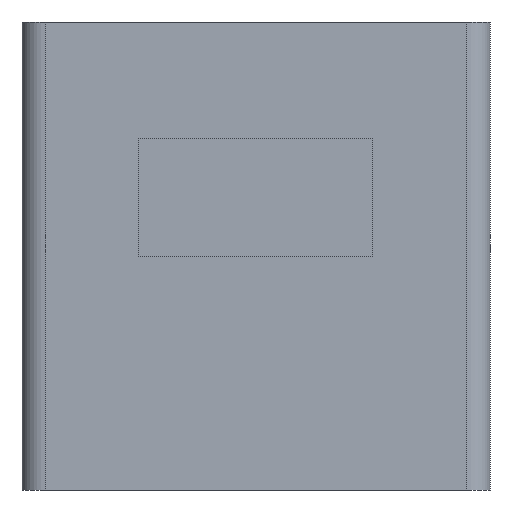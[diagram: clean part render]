
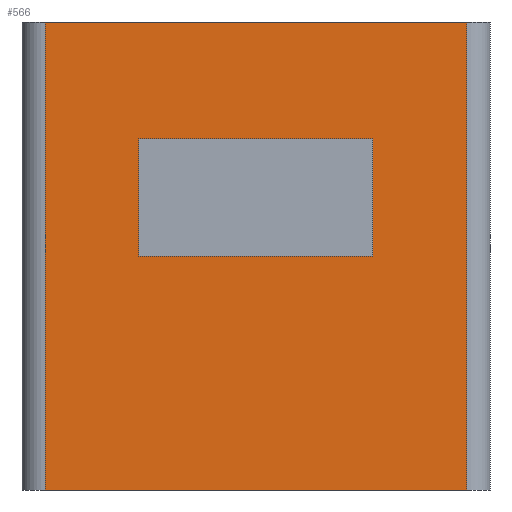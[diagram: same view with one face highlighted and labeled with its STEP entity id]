
A CAD part, front view. The second image highlights one B-rep face of the part: STEP entity #566.
In plain terms, the highlighted planar face has unit normal (0, -1, 0).
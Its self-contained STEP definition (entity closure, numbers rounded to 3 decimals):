
#7 = EDGE_LOOP ( 'NONE', ( #268, #899, #698, #457 ) ) ;
#36 = CARTESIAN_POINT ( 'NONE',  ( -5., -10., 5. ) ) ;
#37 = LINE ( 'NONE', #1139, #1037 ) ;
#41 = VECTOR ( 'NONE', #868, 1000. ) ;
#43 = LINE ( 'NONE', #1144, #363 ) ;
#106 = ORIENTED_EDGE ( 'NONE', *, *, #714, .F. ) ;
#112 = EDGE_LOOP ( 'NONE', ( #106, #985, #373, #432 ) ) ;
#133 = DIRECTION ( 'NONE',  ( 1., 0., 0. ) ) ;
#138 = DIRECTION ( 'NONE',  ( 0., 0., 1. ) ) ;
#149 = VERTEX_POINT ( 'NONE', #238 ) ;
#203 = LINE ( 'NONE', #974, #41 ) ;
#209 = VECTOR ( 'NONE', #133, 1000. ) ;
#210 = VECTOR ( 'NONE', #440, 1000. ) ;
#220 = DIRECTION ( 'NONE',  ( -1., 0., 0. ) ) ;
#238 = CARTESIAN_POINT ( 'NONE',  ( -9., -10., 10. ) ) ;
#268 = ORIENTED_EDGE ( 'NONE', *, *, #472, .F. ) ;
#274 = EDGE_CURVE ( 'NONE', #582, #803, #720, .T. ) ;
#285 = CARTESIAN_POINT ( 'NONE',  ( -10., -10., 10. ) ) ;
#295 = CARTESIAN_POINT ( 'NONE',  ( 5., -10., 5. ) ) ;
#313 = EDGE_CURVE ( 'NONE', #350, #686, #449, .T. ) ;
#316 = EDGE_CURVE ( 'NONE', #469, #582, #37, .T. ) ;
#343 = CARTESIAN_POINT ( 'NONE',  ( 9., -10., -10. ) ) ;
#350 = VERTEX_POINT ( 'NONE', #496 ) ;
#356 = VERTEX_POINT ( 'NONE', #1070 ) ;
#363 = VECTOR ( 'NONE', #1044, 1000. ) ;
#365 = EDGE_CURVE ( 'NONE', #149, #469, #43, .T. ) ;
#373 = ORIENTED_EDGE ( 'NONE', *, *, #570, .F. ) ;
#377 = CARTESIAN_POINT ( 'NONE',  ( -5., -10., 5. ) ) ;
#416 = AXIS2_PLACEMENT_3D ( 'NONE', #908, #796, #672 ) ;
#427 = EDGE_CURVE ( 'NONE', #547, #356, #841, .T. ) ;
#432 = ORIENTED_EDGE ( 'NONE', *, *, #313, .F. ) ;
#440 = DIRECTION ( 'NONE',  ( 0., 0., 1. ) ) ;
#442 = CARTESIAN_POINT ( 'NONE',  ( -9., -10., -10. ) ) ;
#449 = LINE ( 'NONE', #295, #984 ) ;
#457 = ORIENTED_EDGE ( 'NONE', *, *, #274, .T. ) ;
#469 = VERTEX_POINT ( 'NONE', #442 ) ;
#472 = EDGE_CURVE ( 'NONE', #149, #803, #591, .T. ) ;
#496 = CARTESIAN_POINT ( 'NONE',  ( 5., -10., 0. ) ) ;
#521 = CARTESIAN_POINT ( 'NONE',  ( 9., -10., 10. ) ) ;
#526 = LINE ( 'NONE', #377, #945 ) ;
#547 = VERTEX_POINT ( 'NONE', #36 ) ;
#566 = ADVANCED_FACE ( 'NONE', ( #799, #829 ), #1013, .F. ) ;
#570 = EDGE_CURVE ( 'NONE', #686, #547, #526, .T. ) ;
#582 = VERTEX_POINT ( 'NONE', #343 ) ;
#583 = DIRECTION ( 'NONE',  ( 0., 0., -1. ) ) ;
#589 = CARTESIAN_POINT ( 'NONE',  ( 9., -10., 10. ) ) ;
#591 = LINE ( 'NONE', #285, #209 ) ;
#625 = VECTOR ( 'NONE', #583, 1000. ) ;
#672 = DIRECTION ( 'NONE',  ( 0., 0., 1. ) ) ;
#686 = VERTEX_POINT ( 'NONE', #781 ) ;
#698 = ORIENTED_EDGE ( 'NONE', *, *, #316, .T. ) ;
#714 = EDGE_CURVE ( 'NONE', #356, #350, #203, .T. ) ;
#715 = CARTESIAN_POINT ( 'NONE',  ( -5., -10., 5. ) ) ;
#720 = LINE ( 'NONE', #589, #210 ) ;
#781 = CARTESIAN_POINT ( 'NONE',  ( 5., -10., 5. ) ) ;
#796 = DIRECTION ( 'NONE',  ( 0., 1., 0. ) ) ;
#799 = FACE_BOUND ( 'NONE', #112, .T. ) ;
#803 = VERTEX_POINT ( 'NONE', #521 ) ;
#829 = FACE_OUTER_BOUND ( 'NONE', #7, .T. ) ;
#841 = LINE ( 'NONE', #715, #625 ) ;
#868 = DIRECTION ( 'NONE',  ( 1., 0., 0. ) ) ;
#899 = ORIENTED_EDGE ( 'NONE', *, *, #365, .T. ) ;
#908 = CARTESIAN_POINT ( 'NONE',  ( -10., -10., 10. ) ) ;
#945 = VECTOR ( 'NONE', #220, 1000. ) ;
#974 = CARTESIAN_POINT ( 'NONE',  ( -5., -10., 0. ) ) ;
#984 = VECTOR ( 'NONE', #138, 1000. ) ;
#985 = ORIENTED_EDGE ( 'NONE', *, *, #427, .F. ) ;
#1013 = PLANE ( 'NONE',  #416 ) ;
#1037 = VECTOR ( 'NONE', #1038, 1000. ) ;
#1038 = DIRECTION ( 'NONE',  ( 1., 0., 0. ) ) ;
#1044 = DIRECTION ( 'NONE',  ( 0., 0., -1. ) ) ;
#1070 = CARTESIAN_POINT ( 'NONE',  ( -5., -10., 0. ) ) ;
#1139 = CARTESIAN_POINT ( 'NONE',  ( -10., -10., -10. ) ) ;
#1144 = CARTESIAN_POINT ( 'NONE',  ( -9., -10., 10. ) ) ;
